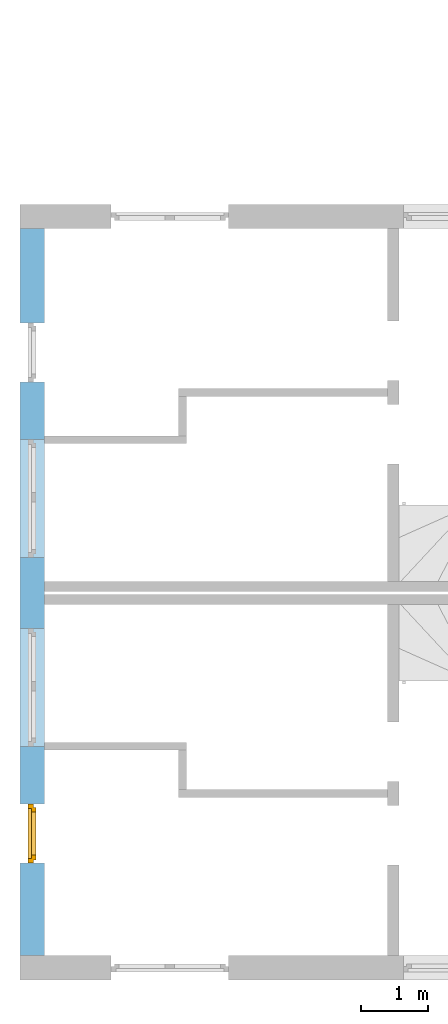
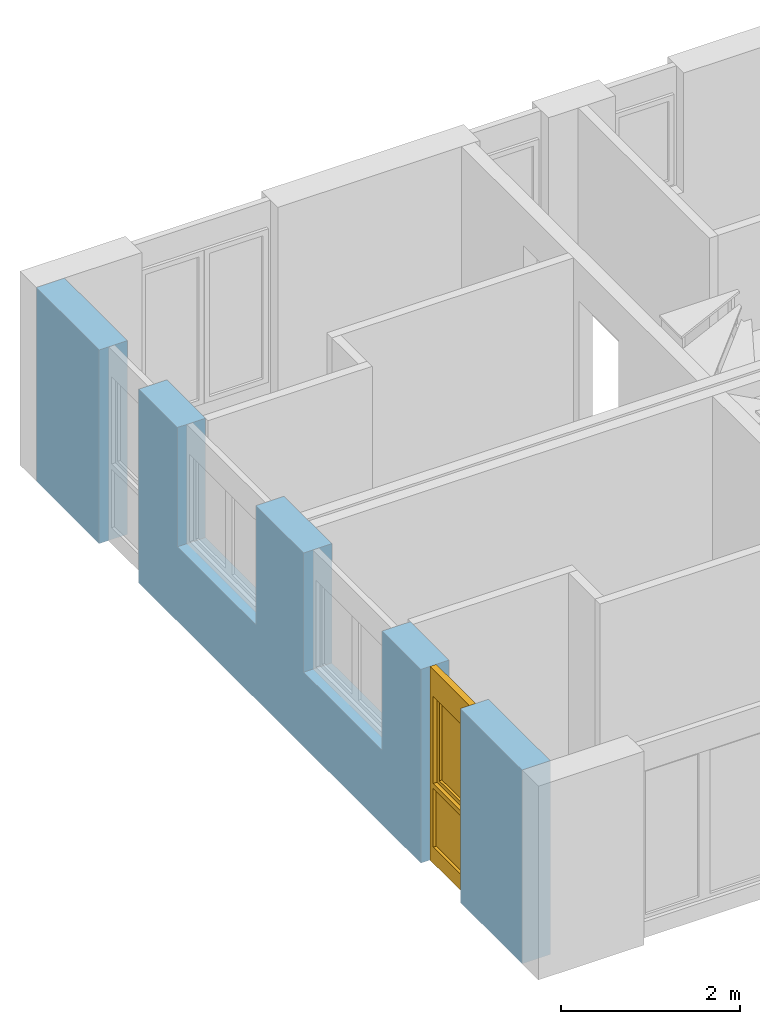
# One storey, part 7 of 42: 1 window, 4 openings, plus 1 element that does not belong to this part.
"""IFC2X3 building model written with IfcOpenShell, lengths in millimetres."""

from ifc_helpers import new_model, entity, si_unit, converted_unit, frame, frame_2d, origin, origin_with_axes, place, context, subcontext, project, spatial, rectangle, extrude, faceted_brep, material, layer, layer_set, layer_usage, type_object, element, fill, save


model = new_model("IFC2X3")

# Units and contexts
model_context = context("Model", 3, precision=1e-05, world=origin())
body_context = subcontext(model_context, "Body", "Model", "MODEL_VIEW")
ifc_project = project(units=[si_unit("LENGTHUNIT", "METRE", prefix="MILLI"), converted_unit("PLANEANGLEUNIT", "DEGREE", entity("IfcPlaneAngleMeasure", 0.0174532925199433), si_unit("PLANEANGLEUNIT", "RADIAN"), dimensions=[0, 0, 0, 0, 0, 0, 0]), si_unit("AREAUNIT", "SQUARE_METRE"), si_unit("VOLUMEUNIT", "CUBIC_METRE")], contexts=[model_context])

# Building, storey
building_placement = place(None, origin())
building = spatial("IfcBuilding", under=ifc_project, at=building_placement, Name="Gebäude", CompositionType="ELEMENT")
storey_placement = place(building_placement, frame((0.0, 0.0, 2730.0), z_axis=(0.0, 0.0, 1.0), x_axis=(1.0, 0.0, 0.0)))
storey = spatial("IfcBuildingStorey", under=building, at=storey_placement, Name="OG.- Grundriss", CompositionType="ELEMENT", Elevation=2730.0)

# Wall, openings, window
ifc_material_1 = material(Name="Poroton")
ifc_layer = layer(ifc_material_1, 365.0)
ifc_layer_set = layer_set([ifc_layer])
ifc_layer_usage = layer_usage(ifc_layer_set, "AXIS2", "POSITIVE", 0.0)
wall_placement = place(storey_placement, frame((130992.7928067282, 136524.8877324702, 0.0), z_axis=(0.0, 0.0, 1.0), x_axis=(1.336877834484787e-14, -1.0, 0.0)))
wall = element("IfcWallStandardCase", 1, at=wall_placement, inside=storey, material=ifc_layer_usage, Name="<Unnamed Element>", context=body_context, shape_type="SweptSolid", body=[
    extrude(rectangle(XDim=10884.99999999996, YDim=365.0, at=frame_2d((5442.499999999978, 182.5), x_axis=(1.0, 0.0))), origin_with_axes(), (0.0, 0.0, 1.0), 2650.0),
])
opening_1_placement = place(wall_placement, frame((5989.999999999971, 1.455191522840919e-13, 1020.0), z_axis=(0.0, 1.0, 0.0), x_axis=(0.0, 0.0, 1.0)))
element("IfcOpeningElement", 2, at=opening_1_placement, cuts=wall, Name="Fensteröffnung", ObjectType="Opening", context=body_context, shape_type="SweptSolid", body=[
    extrude(rectangle(XDim=1630.0, YDim=1760.0, at=frame_2d((815.0, 880.0), x_axis=(1.0, 0.0))), origin_with_axes(), (0.0, 0.0, 1.0), 365.0000000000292),
])
opening_2_placement = place(wall_placement, frame((8614.99999999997, -8.949427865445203e-12, 0.0), z_axis=(0.0, 1.0, 0.0), x_axis=(0.0, 0.0, 1.0)))
opening_2 = element("IfcOpeningElement", 3, at=opening_2_placement, cuts=wall, Name="Fensteröffnung", ObjectType="Opening", context=body_context, shape_type="SweptSolid", body=[
    extrude(rectangle(XDim=2650.0, YDim=885.0, at=frame_2d((1325.0, 442.5), x_axis=(1.0, 0.0))), origin_with_axes(), (0.0, 0.0, 1.0), 364.9999999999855),
])
opening_3_placement = place(wall_placement, frame((3159.987487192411, -1.688003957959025e-11, 1020.0), z_axis=(0.0, 1.0, 0.0), x_axis=(0.0, 0.0, 1.0)))
element("IfcOpeningElement", 4, at=opening_3_placement, cuts=wall, Name="Fensteröffnung", ObjectType="Opening", context=body_context, shape_type="SweptSolid", body=[
    extrude(rectangle(XDim=1630.0, YDim=1760.0, at=frame_2d((815.0, 880.0), x_axis=(1.0, 0.0))), origin_with_axes(), (0.0, 0.0, 1.0), 365.0),
])
opening_4_placement = place(wall_placement, frame((1409.987487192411, -5.966103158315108e-12, 0.0), z_axis=(0.0, 1.0, 0.0), x_axis=(0.0, 0.0, 1.0)))
element("IfcOpeningElement", 5, at=opening_4_placement, cuts=wall, Name="Fensteröffnung", ObjectType="Opening", context=body_context, shape_type="SweptSolid", body=[
    extrude(rectangle(XDim=2650.0, YDim=885.0, at=frame_2d((1325.0, 442.5), x_axis=(1.0, 0.0))), origin_with_axes(), (0.0, 0.0, 1.0), 365.0),
])
ifc_material_2 = material()
window_style = type_object("IfcWindowStyle", Name="Fenster", ConstructionType="NOTDEFINED", OperationType="USERDEFINED", ParameterTakesPrecedence=False, Sizeable=False)
window_placement = place(opening_2_placement, frame((0.0, 0.0, 0.0), z_axis=(1.0, 0.0, 0.0), x_axis=(0.0, 1.0, 0.0)))
window = element("IfcWindow", 6, at=window_placement, inside=storey, type_object=window_style, material=ifc_material_2, Name="Fenster", OverallHeight=2650.0, OverallWidth=885.0, context=body_context, shape_type="Brep", body=[
    faceted_brep([(1.064603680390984e-12, 200.0000000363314, 2650.0), (1.064603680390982e-12, 200.0000000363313, -2.449293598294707e-15), (69.99999999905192, 200.0000000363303, -2.449293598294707e-15), (69.99999999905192, 200.0000000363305, 2650.0), (0.0, 120.0000000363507, 2.449293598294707e-15), (2.08022763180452e-27, 120.0000000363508, 2650.0), (69.99999999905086, 120.0000000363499, 2650.0), (69.99999999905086, 120.0000000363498, 2.449293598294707e-15), (1.064603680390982e-12, 200.0000000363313, -2.449293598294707e-15), (1.064603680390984e-12, 200.0000000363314, 2650.0), (2.08022763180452e-27, 120.0000000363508, 2650.0), (0.0, 120.0000000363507, 2.449293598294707e-15), (69.99999999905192, 200.0000000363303, -2.449293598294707e-15), (1.064603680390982e-12, 200.0000000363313, -2.449293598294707e-15), (0.0, 120.0000000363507, 2.449293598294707e-15), (69.99999999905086, 120.0000000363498, 2.449293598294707e-15), (69.99999999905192, 200.0000000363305, 2650.0), (69.99999999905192, 200.0000000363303, -2.449293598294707e-15), (69.99999999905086, 120.0000000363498, 2.449293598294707e-15), (69.99999999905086, 120.0000000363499, 2650.0), (1.064603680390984e-12, 200.0000000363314, 2650.0), (69.99999999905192, 200.0000000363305, 2650.0), (69.99999999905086, 120.0000000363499, 2650.0), (2.08022763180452e-27, 120.0000000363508, 2650.0)], [[[0, 1, 2, 3]], [[4, 5, 6, 7]], [[8, 9, 10, 11]], [[12, 13, 14, 15]], [[16, 17, 18, 19]], [[20, 21, 22, 23]]], orient=[[False], [False], [False], [False], [False], [False]]),
    faceted_brep([(815.0000000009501, 200.0000000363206, 2650.0), (815.0000000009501, 200.0000000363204, -2.449293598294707e-15), (885.0000000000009, 200.0000000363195, -2.449293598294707e-15), (885.0000000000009, 200.0000000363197, 2650.0), (815.0000000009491, 120.0000000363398, 2.449293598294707e-15), (815.0000000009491, 120.00000003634, 2650.0), (884.9999999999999, 120.0000000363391, 2650.0), (884.9999999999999, 120.0000000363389, 2.449293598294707e-15), (815.0000000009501, 200.0000000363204, -2.449293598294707e-15), (815.0000000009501, 200.0000000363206, 2650.0), (815.0000000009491, 120.00000003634, 2650.0), (815.0000000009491, 120.0000000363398, 2.449293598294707e-15), (885.0000000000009, 200.0000000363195, -2.449293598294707e-15), (815.0000000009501, 200.0000000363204, -2.449293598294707e-15), (815.0000000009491, 120.0000000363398, 2.449293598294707e-15), (884.9999999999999, 120.0000000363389, 2.449293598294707e-15), (885.0000000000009, 200.0000000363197, 2650.0), (885.0000000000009, 200.0000000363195, -2.449293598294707e-15), (884.9999999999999, 120.0000000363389, 2.449293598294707e-15), (884.9999999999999, 120.0000000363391, 2650.0), (815.0000000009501, 200.0000000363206, 2650.0), (885.0000000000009, 200.0000000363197, 2650.0), (884.9999999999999, 120.0000000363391, 2650.0), (815.0000000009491, 120.00000003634, 2650.0)], [[[0, 1, 2, 3]], [[4, 5, 6, 7]], [[8, 9, 10, 11]], [[12, 13, 14, 15]], [[16, 17, 18, 19]], [[20, 21, 22, 23]]], orient=[[False], [False], [False], [False], [False], [False]]),
    faceted_brep([(69.99999999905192, 200.0000000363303, 220.0), (69.99999999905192, 200.0000000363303, -2.449293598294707e-15), (815.0000000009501, 200.0000000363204, -2.449293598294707e-15), (815.0000000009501, 200.0000000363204, 220.0), (69.99999999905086, 120.0000000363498, 2.449293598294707e-15), (69.99999999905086, 120.0000000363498, 220.0), (815.0000000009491, 120.0000000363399, 220.0), (815.0000000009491, 120.0000000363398, 2.449293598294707e-15), (69.99999999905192, 200.0000000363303, -2.449293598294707e-15), (69.99999999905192, 200.0000000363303, 220.0), (69.99999999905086, 120.0000000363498, 220.0), (69.99999999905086, 120.0000000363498, 2.449293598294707e-15), (815.0000000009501, 200.0000000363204, -2.449293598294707e-15), (69.99999999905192, 200.0000000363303, -2.449293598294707e-15), (69.99999999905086, 120.0000000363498, 2.449293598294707e-15), (815.0000000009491, 120.0000000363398, 2.449293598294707e-15), (815.0000000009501, 200.0000000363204, 220.0), (815.0000000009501, 200.0000000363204, -2.449293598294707e-15), (815.0000000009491, 120.0000000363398, 2.449293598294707e-15), (815.0000000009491, 120.0000000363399, 220.0), (69.99999999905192, 200.0000000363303, 220.0), (815.0000000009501, 200.0000000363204, 220.0), (815.0000000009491, 120.0000000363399, 220.0), (69.99999999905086, 120.0000000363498, 220.0)], [[[0, 1, 2, 3]], [[4, 5, 6, 7]], [[8, 9, 10, 11]], [[12, 13, 14, 15]], [[16, 17, 18, 19]], [[20, 21, 22, 23]]], orient=[[False], [False], [False], [False], [False], [False]]),
    faceted_brep([(69.99999999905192, 200.0000000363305, 2650.0), (69.99999999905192, 200.0000000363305, 2280.0), (815.0000000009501, 200.0000000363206, 2280.0), (815.0000000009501, 200.0000000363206, 2650.0), (69.99999999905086, 120.0000000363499, 2280.0), (69.99999999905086, 120.0000000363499, 2650.0), (815.0000000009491, 120.00000003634, 2650.0), (815.0000000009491, 120.00000003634, 2280.0), (69.99999999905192, 200.0000000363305, 2280.0), (69.99999999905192, 200.0000000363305, 2650.0), (69.99999999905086, 120.0000000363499, 2650.0), (69.99999999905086, 120.0000000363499, 2280.0), (815.0000000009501, 200.0000000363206, 2280.0), (69.99999999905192, 200.0000000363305, 2280.0), (69.99999999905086, 120.0000000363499, 2280.0), (815.0000000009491, 120.00000003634, 2280.0), (815.0000000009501, 200.0000000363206, 2650.0), (815.0000000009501, 200.0000000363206, 2280.0), (815.0000000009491, 120.00000003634, 2280.0), (815.0000000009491, 120.00000003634, 2650.0), (69.99999999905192, 200.0000000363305, 2650.0), (815.0000000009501, 200.0000000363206, 2650.0), (815.0000000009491, 120.00000003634, 2650.0), (69.99999999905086, 120.0000000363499, 2650.0)], [[[0, 1, 2, 3]], [[4, 5, 6, 7]], [[8, 9, 10, 11]], [[12, 13, 14, 15]], [[16, 17, 18, 19]], [[20, 21, 22, 23]]], orient=[[False], [False], [False], [False], [False], [False]]),
    faceted_brep([(69.99999999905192, 200.0000000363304, 1090.0), (69.99999999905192, 200.0000000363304, 1020.0), (815.0000000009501, 200.0000000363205, 1020.0), (815.0000000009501, 200.0000000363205, 1090.0), (69.99999999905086, 120.0000000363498, 1020.0), (69.99999999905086, 120.0000000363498, 1090.0), (815.0000000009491, 120.0000000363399, 1090.0), (815.0000000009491, 120.0000000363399, 1020.0), (69.99999999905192, 200.0000000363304, 1020.0), (69.99999999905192, 200.0000000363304, 1090.0), (69.99999999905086, 120.0000000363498, 1090.0), (69.99999999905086, 120.0000000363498, 1020.0), (815.0000000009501, 200.0000000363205, 1020.0), (69.99999999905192, 200.0000000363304, 1020.0), (69.99999999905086, 120.0000000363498, 1020.0), (815.0000000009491, 120.0000000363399, 1020.0), (815.0000000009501, 200.0000000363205, 1090.0), (815.0000000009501, 200.0000000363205, 1020.0), (815.0000000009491, 120.0000000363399, 1020.0), (815.0000000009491, 120.0000000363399, 1090.0), (69.99999999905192, 200.0000000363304, 1090.0), (815.0000000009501, 200.0000000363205, 1090.0), (815.0000000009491, 120.0000000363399, 1090.0), (69.99999999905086, 120.0000000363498, 1090.0)], [[[0, 1, 2, 3]], [[4, 5, 6, 7]], [[8, 9, 10, 11]], [[12, 13, 14, 15]], [[16, 17, 18, 19]], [[20, 21, 22, 23]]], orient=[[False], [False], [False], [False], [False], [False]]),
    faceted_brep([(69.99999999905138, 160.0000000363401, 220.0), (815.0000000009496, 160.0000000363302, 220.0), (815.0000000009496, 160.0000000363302, 1020.0), (69.99999999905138, 160.0000000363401, 1020.0), (69.99999999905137, 159.0000000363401, 220.0), (69.99999999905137, 159.0000000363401, 1020.0), (815.0000000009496, 159.0000000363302, 1020.0), (815.0000000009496, 159.0000000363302, 220.0), (69.99999999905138, 160.0000000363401, 220.0), (69.99999999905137, 159.0000000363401, 220.0), (815.0000000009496, 159.0000000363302, 220.0), (815.0000000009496, 160.0000000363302, 220.0), (815.0000000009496, 160.0000000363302, 220.0), (815.0000000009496, 159.0000000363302, 220.0), (815.0000000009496, 159.0000000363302, 1020.0), (815.0000000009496, 160.0000000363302, 1020.0), (815.0000000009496, 160.0000000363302, 1020.0), (815.0000000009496, 159.0000000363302, 1020.0), (69.99999999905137, 159.0000000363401, 1020.0), (69.99999999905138, 160.0000000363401, 1020.0), (69.99999999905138, 160.0000000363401, 1020.0), (69.99999999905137, 159.0000000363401, 1020.0), (69.99999999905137, 159.0000000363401, 220.0), (69.99999999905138, 160.0000000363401, 220.0)], [[[0, 1, 2, 3]], [[4, 5, 6, 7]], [[8, 9, 10, 11]], [[12, 13, 14, 15]], [[16, 17, 18, 19]], [[20, 21, 22, 23]]], orient=[[False], [False], [False], [False], [False], [False]]),
    faceted_brep([(49.99999999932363, 240.000000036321, 2300.0), (49.99999999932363, 240.000000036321, 1070.0), (119.9999999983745, 240.0000000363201, 1070.0), (119.9999999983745, 240.0000000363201, 2300.0), (49.9999999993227, 170.000000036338, 1070.0), (49.9999999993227, 170.000000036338, 2300.0), (119.9999999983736, 170.0000000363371, 2300.0), (119.9999999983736, 170.000000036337, 1070.0), (49.99999999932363, 240.000000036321, 1070.0), (49.99999999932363, 240.000000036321, 2300.0), (49.9999999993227, 170.000000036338, 2300.0), (49.9999999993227, 170.000000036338, 1070.0), (119.9999999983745, 240.0000000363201, 1070.0), (49.99999999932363, 240.000000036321, 1070.0), (49.9999999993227, 170.000000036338, 1070.0), (119.9999999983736, 170.000000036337, 1070.0), (119.9999999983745, 240.0000000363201, 2300.0), (119.9999999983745, 240.0000000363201, 1070.0), (119.9999999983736, 170.000000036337, 1070.0), (119.9999999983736, 170.0000000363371, 2300.0), (49.99999999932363, 240.000000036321, 2300.0), (119.9999999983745, 240.0000000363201, 2300.0), (119.9999999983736, 170.0000000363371, 2300.0), (49.9999999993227, 170.000000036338, 2300.0)], [[[0, 1, 2, 3]], [[4, 5, 6, 7]], [[8, 9, 10, 11]], [[12, 13, 14, 15]], [[16, 17, 18, 19]], [[20, 21, 22, 23]]], orient=[[False], [False], [False], [False], [False], [False]]),
    faceted_brep([(765.0000000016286, 240.0000000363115, 2300.0), (765.0000000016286, 240.0000000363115, 1070.0), (835.0000000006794, 240.0000000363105, 1070.0), (835.0000000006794, 240.0000000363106, 2300.0), (765.0000000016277, 170.0000000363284, 1070.0), (765.0000000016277, 170.0000000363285, 2300.0), (835.0000000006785, 170.0000000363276, 2300.0), (835.0000000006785, 170.0000000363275, 1070.0), (765.0000000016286, 240.0000000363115, 1070.0), (765.0000000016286, 240.0000000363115, 2300.0), (765.0000000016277, 170.0000000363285, 2300.0), (765.0000000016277, 170.0000000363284, 1070.0), (835.0000000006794, 240.0000000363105, 1070.0), (765.0000000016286, 240.0000000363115, 1070.0), (765.0000000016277, 170.0000000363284, 1070.0), (835.0000000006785, 170.0000000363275, 1070.0), (835.0000000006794, 240.0000000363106, 2300.0), (835.0000000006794, 240.0000000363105, 1070.0), (835.0000000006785, 170.0000000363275, 1070.0), (835.0000000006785, 170.0000000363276, 2300.0), (765.0000000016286, 240.0000000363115, 2300.0), (835.0000000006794, 240.0000000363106, 2300.0), (835.0000000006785, 170.0000000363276, 2300.0), (765.0000000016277, 170.0000000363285, 2300.0)], [[[0, 1, 2, 3]], [[4, 5, 6, 7]], [[8, 9, 10, 11]], [[12, 13, 14, 15]], [[16, 17, 18, 19]], [[20, 21, 22, 23]]], orient=[[False], [False], [False], [False], [False], [False]]),
    faceted_brep([(119.9999999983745, 240.0000000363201, 1140.0), (119.9999999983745, 240.0000000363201, 1070.0), (765.0000000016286, 240.0000000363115, 1070.0), (765.0000000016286, 240.0000000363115, 1140.0), (119.9999999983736, 170.000000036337, 1070.0), (119.9999999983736, 170.000000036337, 1140.0), (765.0000000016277, 170.0000000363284, 1140.0), (765.0000000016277, 170.0000000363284, 1070.0), (119.9999999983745, 240.0000000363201, 1070.0), (119.9999999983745, 240.0000000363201, 1140.0), (119.9999999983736, 170.000000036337, 1140.0), (119.9999999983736, 170.000000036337, 1070.0), (765.0000000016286, 240.0000000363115, 1070.0), (119.9999999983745, 240.0000000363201, 1070.0), (119.9999999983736, 170.000000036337, 1070.0), (765.0000000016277, 170.0000000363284, 1070.0), (765.0000000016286, 240.0000000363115, 1140.0), (765.0000000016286, 240.0000000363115, 1070.0), (765.0000000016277, 170.0000000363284, 1070.0), (765.0000000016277, 170.0000000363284, 1140.0), (119.9999999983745, 240.0000000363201, 1140.0), (765.0000000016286, 240.0000000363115, 1140.0), (765.0000000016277, 170.0000000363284, 1140.0), (119.9999999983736, 170.000000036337, 1140.0)], [[[0, 1, 2, 3]], [[4, 5, 6, 7]], [[8, 9, 10, 11]], [[12, 13, 14, 15]], [[16, 17, 18, 19]], [[20, 21, 22, 23]]], orient=[[False], [False], [False], [False], [False], [False]]),
    faceted_brep([(119.9999999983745, 240.0000000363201, 2300.0), (119.9999999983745, 240.0000000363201, 2230.0), (765.0000000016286, 240.0000000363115, 2230.0), (765.0000000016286, 240.0000000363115, 2300.0), (119.9999999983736, 170.0000000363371, 2230.0), (119.9999999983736, 170.0000000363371, 2300.0), (765.0000000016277, 170.0000000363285, 2300.0), (765.0000000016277, 170.0000000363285, 2230.0), (119.9999999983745, 240.0000000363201, 2230.0), (119.9999999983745, 240.0000000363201, 2300.0), (119.9999999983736, 170.0000000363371, 2300.0), (119.9999999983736, 170.0000000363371, 2230.0), (765.0000000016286, 240.0000000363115, 2230.0), (119.9999999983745, 240.0000000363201, 2230.0), (119.9999999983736, 170.0000000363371, 2230.0), (765.0000000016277, 170.0000000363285, 2230.0), (765.0000000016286, 240.0000000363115, 2300.0), (765.0000000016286, 240.0000000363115, 2230.0), (765.0000000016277, 170.0000000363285, 2230.0), (765.0000000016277, 170.0000000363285, 2300.0), (119.9999999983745, 240.0000000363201, 2300.0), (765.0000000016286, 240.0000000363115, 2300.0), (765.0000000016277, 170.0000000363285, 2300.0), (119.9999999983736, 170.0000000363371, 2300.0)], [[[0, 1, 2, 3]], [[4, 5, 6, 7]], [[8, 9, 10, 11]], [[12, 13, 14, 15]], [[16, 17, 18, 19]], [[20, 21, 22, 23]]], orient=[[False], [False], [False], [False], [False], [False]]),
    faceted_brep([(119.999999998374, 205.0000000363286, 1140.0), (765.0000000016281, 205.00000003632, 1140.0), (765.0000000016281, 205.0000000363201, 2230.0), (119.999999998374, 205.0000000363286, 2230.0), (119.999999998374, 204.0000000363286, 1140.0), (119.999999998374, 204.0000000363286, 2230.0), (765.0000000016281, 204.0000000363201, 2230.0), (765.0000000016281, 204.00000003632, 1140.0), (119.999999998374, 205.0000000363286, 1140.0), (119.999999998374, 204.0000000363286, 1140.0), (765.0000000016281, 204.00000003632, 1140.0), (765.0000000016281, 205.00000003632, 1140.0), (765.0000000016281, 205.00000003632, 1140.0), (765.0000000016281, 204.00000003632, 1140.0), (765.0000000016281, 204.0000000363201, 2230.0), (765.0000000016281, 205.0000000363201, 2230.0), (765.0000000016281, 205.0000000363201, 2230.0), (765.0000000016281, 204.0000000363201, 2230.0), (119.999999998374, 204.0000000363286, 2230.0), (119.999999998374, 205.0000000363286, 2230.0), (119.999999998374, 205.0000000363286, 2230.0), (119.999999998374, 204.0000000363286, 2230.0), (119.999999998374, 204.0000000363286, 1140.0), (119.999999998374, 205.0000000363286, 1140.0)], [[[0, 1, 2, 3]], [[4, 5, 6, 7]], [[8, 9, 10, 11]], [[12, 13, 14, 15]], [[16, 17, 18, 19]], [[20, 21, 22, 23]]], orient=[[False], [False], [False], [False], [False], [False]]),
])
fill(opening_2, window)

save(model, "model.ifc")
